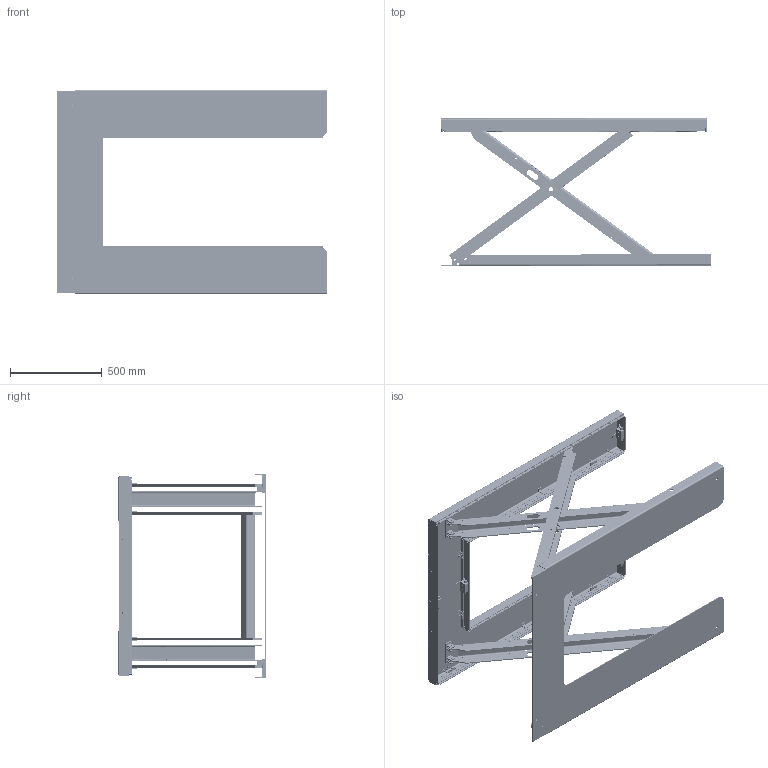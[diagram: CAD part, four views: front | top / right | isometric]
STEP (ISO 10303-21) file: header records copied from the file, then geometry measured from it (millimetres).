
FILE_DESCRIPTION(/* description */ ('CUB 1000'),/* implementation_level */ '2;1');
FILE_NAME(/* name */ 'C:\Autodesk_VaultWork\Ritningar\tmp\34858_Raised.stp',/* time_stamp */ '2018-07-24T08:20:19+02:00',/* author */ ('johso'),/* organization */ (''),/* preprocessor_version */ 'ST-DEVELOPER v16.5',/* originating_system */ 'Autodesk Inventor 2017',/* authorisation */ '');
FILE_SCHEMA (('AUTOMOTIVE_DESIGN { 1 0 10303 214 3 1 1 }'));
Products named in the file (35): 22003.tmp; 35316; 35317; 43469C; 44843; 22000; 34643; 34644; 34645; 43341; 43342C; 83572 - 130; 43039; 43471; 44572; 43229; 84207; 33213; 33214; 33215; 42949C; 43360; 32233; 43056-1050; 43056-1420; 43056-218; 43056-1190; 43056-590; 33990; 42330; 44510; 84088; 43481; 34750; 32497
Assembly tree (106 placements, depth 4):
  22003.tmp
    35316
      35317
      44843  x4
      43469C  x2
    22000
      34643
      34644
      34645
      44572  x4
      43341  x2
        43342C
        83572 - 130
      43039  x2
      43471
      43229  x5
      84207  x10
    33213
      33214  x2
      33215  x2
      42949C  x8
      43360
    34750  x2
      32497
    32233
      43056-1050
      43056-1420  x2
      43056-218  x2
      43056-1190  x2
      43056-590
      33990  x4
      42330  x9
      44510  x8
      84088  x9
      43481  x9
Bounding box: 1470.93 x 802 x 1111.73 mm (x, y, z)
Volume: 19884695.9 mm3; surface area: 8384862.7 mm2
Topology: 104 solids, 120 shells, 7645 faces, 20833 edges, 13676 vertices
Faces by surface type: plane 4253, cylinder 2086, bspline 995, cone 214, torus 97
Full cylindrical faces by diameter (mm): 0.474 x4, 1 x8, 3 x8, 3.141 x8, 3.2 x8, 4 x32, 4.3 x8, 4.7 x2, 4.9 x4, 4.917 x9, 5 x8, 5.2 x12, 5.3 x4, 6 x10, 7.4 x4, 7.6 x8, 8 x16, 8.5 x13, 8.88 x10, 8.9 x9, 9.5 x4, 10 x23, 10.1 x4, 10.2 x2, 10.5 x21, 11 x4, 13 x4, 16 x16, 20 x4, 20.1 x4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
Entity records: 79320 total; most frequent: CARTESIAN_POINT 22295, ORIENTED_EDGE 11662, DIRECTION 10865, EDGE_CURVE 5825, VERTEX_POINT 3892, LINE 3797, VECTOR 3797, AXIS2_PLACEMENT_3D 3534
